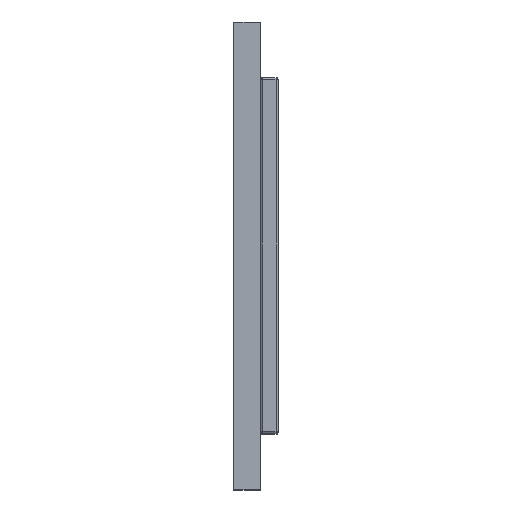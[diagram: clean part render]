
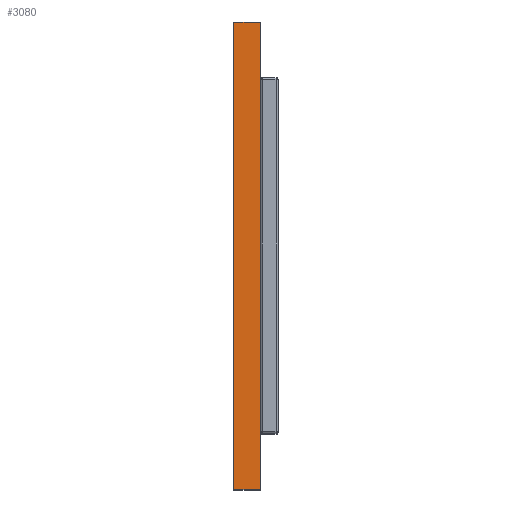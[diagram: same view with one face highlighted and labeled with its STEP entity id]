
A CAD part, top view. The second image highlights one B-rep face of the part: STEP entity #3080.
In plain terms, the highlighted planar face has unit normal (0, 0, 1).
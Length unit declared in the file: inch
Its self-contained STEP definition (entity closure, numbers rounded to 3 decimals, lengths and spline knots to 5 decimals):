
#93 = ORIENTED_EDGE ( 'NONE', *, *, #2867, .F. ) ;
#192 = DIRECTION ( 'NONE',  ( 0., -1., 0. ) ) ;
#218 = CARTESIAN_POINT ( 'NONE',  ( 0.23622, 4.13386, 5.03937 ) ) ;
#254 = VECTOR ( 'NONE', #278, 39.37008 ) ;
#278 = DIRECTION ( 'NONE',  ( 0., -1., 0. ) ) ;
#280 = CARTESIAN_POINT ( 'NONE',  ( 0., 4.13386, 5.03937 ) ) ;
#298 = DIRECTION ( 'NONE',  ( 1., 0., 0. ) ) ;
#425 = ORIENTED_EDGE ( 'NONE', *, *, #3398, .F. ) ;
#582 = ORIENTED_EDGE ( 'NONE', *, *, #2727, .T. ) ;
#627 = CARTESIAN_POINT ( 'NONE',  ( 0., 0., 5.03937 ) ) ;
#771 = EDGE_LOOP ( 'NONE', ( #582, #425, #93, #1026 ) ) ;
#775 = VECTOR ( 'NONE', #192, 39.37008 ) ;
#875 = LINE ( 'NONE', #627, #2736 ) ;
#1026 = ORIENTED_EDGE ( 'NONE', *, *, #2530, .T. ) ;
#1117 = LINE ( 'NONE', #2188, #254 ) ;
#1669 = VECTOR ( 'NONE', #3521, 39.37008 ) ;
#1735 = VERTEX_POINT ( 'NONE', #280 ) ;
#1895 = VERTEX_POINT ( 'NONE', #3482 ) ;
#2100 = PLANE ( 'NONE',  #2841 ) ;
#2117 = CARTESIAN_POINT ( 'NONE',  ( 0., 0., 5.03937 ) ) ;
#2188 = CARTESIAN_POINT ( 'NONE',  ( 0.23622, 0., 5.03937 ) ) ;
#2269 = LINE ( 'NONE', #3043, #775 ) ;
#2365 = DIRECTION ( 'NONE',  ( -1., 0., 0. ) ) ;
#2386 = CARTESIAN_POINT ( 'NONE',  ( 0., 0., 5.03937 ) ) ;
#2491 = LINE ( 'NONE', #2611, #1669 ) ;
#2530 = EDGE_CURVE ( 'NONE', #1735, #2550, #2269, .T. ) ;
#2550 = VERTEX_POINT ( 'NONE', #2117 ) ;
#2611 = CARTESIAN_POINT ( 'NONE',  ( 0., 4.13386, 5.03937 ) ) ;
#2677 = DIRECTION ( 'NONE',  ( 0., 0., -1. ) ) ;
#2727 = EDGE_CURVE ( 'NONE', #2550, #1895, #875, .T. ) ;
#2736 = VECTOR ( 'NONE', #298, 39.37008 ) ;
#2841 = AXIS2_PLACEMENT_3D ( 'NONE', #2386, #2677, #2365 ) ;
#2867 = EDGE_CURVE ( 'NONE', #1735, #3271, #2491, .T. ) ;
#3043 = CARTESIAN_POINT ( 'NONE',  ( 0., 0., 5.03937 ) ) ;
#3080 = ADVANCED_FACE ( 'NONE', ( #3758 ), #2100, .F. ) ;
#3271 = VERTEX_POINT ( 'NONE', #218 ) ;
#3398 = EDGE_CURVE ( 'NONE', #3271, #1895, #1117, .T. ) ;
#3482 = CARTESIAN_POINT ( 'NONE',  ( 0.23622, 0., 5.03937 ) ) ;
#3521 = DIRECTION ( 'NONE',  ( 1., 0., 0. ) ) ;
#3758 = FACE_OUTER_BOUND ( 'NONE', #771, .T. ) ;
